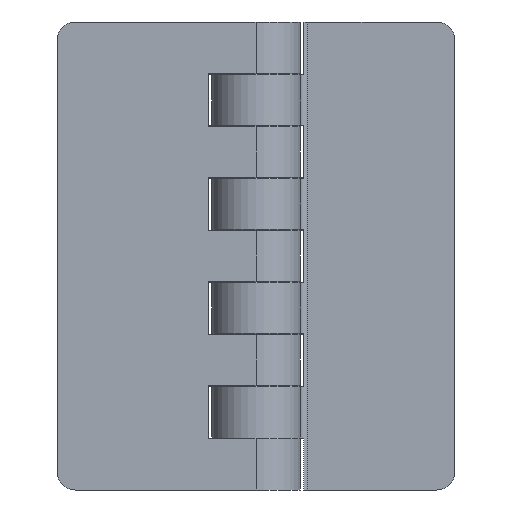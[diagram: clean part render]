
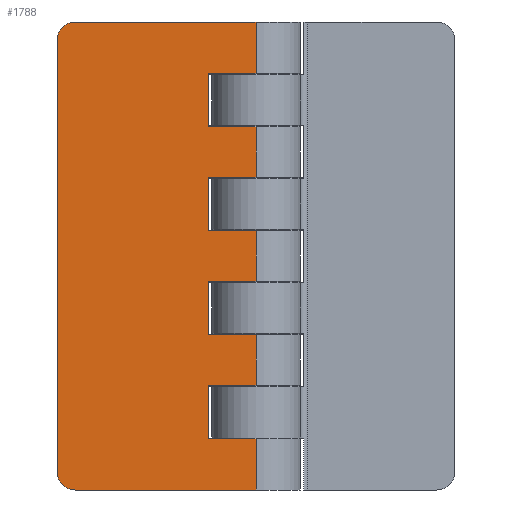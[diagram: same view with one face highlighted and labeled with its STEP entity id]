
A CAD part, front view. The second image highlights one B-rep face of the part: STEP entity #1788.
In plain terms, the highlighted planar face has unit normal (0, -1, 0).
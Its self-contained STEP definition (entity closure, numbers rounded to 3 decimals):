
#1493=CARTESIAN_POINT('',(10.5,-7.3,24.794));
#1494=VERTEX_POINT('',#1493);
#1594=CARTESIAN_POINT('',(4.0,-7.3,24.794));
#1595=VERTEX_POINT('',#1594);
#1596=CARTESIAN_POINT('',(10.5,-7.3,24.794));
#1597=DIRECTION('',(-1.0,0.0,0.0));
#1598=VECTOR('',#1597,6.5);
#1599=LINE('',#1596,#1598);
#1600=EDGE_CURVE('',#1494,#1595,#1599,.T.);
#1612=CARTESIAN_POINT('',(10.5,-7.3,-31.75));
#1613=DIRECTION('',(0.0,-1.0,0.0));
#1614=DIRECTION('',(1.0,0.0,0.0));
#1615=AXIS2_PLACEMENT_3D('',#1612,#1613,#1614);
#1616=PLANE('',#1615);
#1617=CARTESIAN_POINT('',(4.0,-7.3,17.539));
#1618=VERTEX_POINT('',#1617);
#1619=CARTESIAN_POINT('',(4.0,-7.3,24.794));
#1620=DIRECTION('',(0.0,0.0,-1.0));
#1621=VECTOR('',#1620,7.256);
#1622=LINE('',#1619,#1621);
#1623=EDGE_CURVE('',#1595,#1618,#1622,.T.);
#1624=ORIENTED_EDGE('',*,*,#1623,.F.);
#1625=ORIENTED_EDGE('',*,*,#1600,.F.);
#1626=CARTESIAN_POINT('',(10.5,-7.3,31.75));
#1627=VERTEX_POINT('',#1626);
#1628=CARTESIAN_POINT('',(10.5,-7.3,24.794));
#1629=DIRECTION('',(0.0,0.0,1.0));
#1630=VECTOR('',#1629,6.956);
#1631=LINE('',#1628,#1630);
#1632=EDGE_CURVE('',#1494,#1627,#1631,.T.);
#1633=ORIENTED_EDGE('',*,*,#1632,.T.);
#1634=CARTESIAN_POINT('',(-14.0,-7.3,31.75));
#1635=VERTEX_POINT('',#1634);
#1636=CARTESIAN_POINT('',(10.5,-7.3,31.75));
#1637=DIRECTION('',(-1.0,0.0,0.0));
#1638=VECTOR('',#1637,24.5);
#1639=LINE('',#1636,#1638);
#1640=EDGE_CURVE('',#1627,#1635,#1639,.T.);
#1641=ORIENTED_EDGE('',*,*,#1640,.T.);
#1642=CARTESIAN_POINT('',(-16.5,-7.3,29.25));
#1643=VERTEX_POINT('',#1642);
#1644=CARTESIAN_POINT('',(-14.0,-7.3,29.25));
#1645=DIRECTION('',(0.0,-1.0,0.0));
#1646=DIRECTION('',(0.0,0.0,1.0));
#1647=AXIS2_PLACEMENT_3D('',#1644,#1645,#1646);
#1648=CIRCLE('',#1647,2.5);
#1649=EDGE_CURVE('',#1635,#1643,#1648,.T.);
#1650=ORIENTED_EDGE('',*,*,#1649,.T.);
#1651=CARTESIAN_POINT('',(-16.5,-7.3,-29.25));
#1652=VERTEX_POINT('',#1651);
#1653=CARTESIAN_POINT('',(-16.5,-7.3,-29.25));
#1654=DIRECTION('',(0.0,0.0,1.0));
#1655=VECTOR('',#1654,58.5);
#1656=LINE('',#1653,#1655);
#1657=EDGE_CURVE('',#1652,#1643,#1656,.T.);
#1658=ORIENTED_EDGE('',*,*,#1657,.F.);
#1659=CARTESIAN_POINT('',(-14.0,-7.3,-31.75));
#1660=VERTEX_POINT('',#1659);
#1661=CARTESIAN_POINT('',(-14.0,-7.3,-29.25));
#1662=DIRECTION('',(0.0,-1.0,0.0));
#1663=DIRECTION('',(0.0,0.0,-1.0));
#1664=AXIS2_PLACEMENT_3D('',#1661,#1662,#1663);
#1665=CIRCLE('',#1664,2.5);
#1666=EDGE_CURVE('',#1652,#1660,#1665,.T.);
#1667=ORIENTED_EDGE('',*,*,#1666,.T.);
#1668=CARTESIAN_POINT('',(10.5,-7.3,-31.75));
#1669=VERTEX_POINT('',#1668);
#1670=CARTESIAN_POINT('',(-14.0,-7.3,-31.75));
#1671=DIRECTION('',(1.0,0.0,0.0));
#1672=VECTOR('',#1671,24.5);
#1673=LINE('',#1670,#1672);
#1674=EDGE_CURVE('',#1660,#1669,#1673,.T.);
#1675=ORIENTED_EDGE('',*,*,#1674,.T.);
#1676=CARTESIAN_POINT('',(10.5,-7.3,-24.794));
#1677=VERTEX_POINT('',#1676);
#1678=CARTESIAN_POINT('',(10.5,-7.3,-31.75));
#1679=DIRECTION('',(0.0,0.0,1.0));
#1680=VECTOR('',#1679,6.956);
#1681=LINE('',#1678,#1680);
#1682=EDGE_CURVE('',#1669,#1677,#1681,.T.);
#1683=ORIENTED_EDGE('',*,*,#1682,.T.);
#1684=CARTESIAN_POINT('',(4.0,-7.3,-24.794));
#1685=VERTEX_POINT('',#1684);
#1686=CARTESIAN_POINT('',(4.0,-7.3,-24.794));
#1687=DIRECTION('',(1.0,0.0,0.0));
#1688=VECTOR('',#1687,6.5);
#1689=LINE('',#1686,#1688);
#1690=EDGE_CURVE('',#1685,#1677,#1689,.T.);
#1691=ORIENTED_EDGE('',*,*,#1690,.F.);
#1692=CARTESIAN_POINT('',(4.0,-7.3,-17.539));
#1693=VERTEX_POINT('',#1692);
#1694=CARTESIAN_POINT('',(4.0,-7.3,-17.539));
#1695=DIRECTION('',(0.0,0.0,-1.0));
#1696=VECTOR('',#1695,7.256);
#1697=LINE('',#1694,#1696);
#1698=EDGE_CURVE('',#1693,#1685,#1697,.T.);
#1699=ORIENTED_EDGE('',*,*,#1698,.F.);
#1700=CARTESIAN_POINT('',(10.5,-7.3,-17.539));
#1701=VERTEX_POINT('',#1700);
#1702=CARTESIAN_POINT('',(10.5,-7.3,-17.539));
#1703=DIRECTION('',(-1.0,0.0,0.0));
#1704=VECTOR('',#1703,6.5);
#1705=LINE('',#1702,#1704);
#1706=EDGE_CURVE('',#1701,#1693,#1705,.T.);
#1707=ORIENTED_EDGE('',*,*,#1706,.F.);
#1708=CARTESIAN_POINT('',(10.5,-7.3,-10.683));
#1709=VERTEX_POINT('',#1708);
#1710=CARTESIAN_POINT('',(10.5,-7.3,-17.539));
#1711=DIRECTION('',(0.0,0.0,1.0));
#1712=VECTOR('',#1711,6.856);
#1713=LINE('',#1710,#1712);
#1714=EDGE_CURVE('',#1701,#1709,#1713,.T.);
#1715=ORIENTED_EDGE('',*,*,#1714,.T.);
#1716=CARTESIAN_POINT('',(4.0,-7.3,-10.683));
#1717=VERTEX_POINT('',#1716);
#1718=CARTESIAN_POINT('',(4.0,-7.3,-10.683));
#1719=DIRECTION('',(1.0,0.0,0.0));
#1720=VECTOR('',#1719,6.5);
#1721=LINE('',#1718,#1720);
#1722=EDGE_CURVE('',#1717,#1709,#1721,.T.);
#1723=ORIENTED_EDGE('',*,*,#1722,.F.);
#1724=CARTESIAN_POINT('',(4.0,-7.3,-3.428));
#1725=VERTEX_POINT('',#1724);
#1726=CARTESIAN_POINT('',(4.0,-7.3,-3.428));
#1727=DIRECTION('',(0.0,0.0,-1.0));
#1728=VECTOR('',#1727,7.256);
#1729=LINE('',#1726,#1728);
#1730=EDGE_CURVE('',#1725,#1717,#1729,.T.);
#1731=ORIENTED_EDGE('',*,*,#1730,.F.);
#1732=CARTESIAN_POINT('',(10.5,-7.3,-3.428));
#1733=VERTEX_POINT('',#1732);
#1734=CARTESIAN_POINT('',(10.5,-7.3,-3.428));
#1735=DIRECTION('',(-1.0,0.0,0.0));
#1736=VECTOR('',#1735,6.5);
#1737=LINE('',#1734,#1736);
#1738=EDGE_CURVE('',#1733,#1725,#1737,.T.);
#1739=ORIENTED_EDGE('',*,*,#1738,.F.);
#1740=CARTESIAN_POINT('',(10.5,-7.3,3.428));
#1741=VERTEX_POINT('',#1740);
#1742=CARTESIAN_POINT('',(10.5,-7.3,-3.428));
#1743=DIRECTION('',(0.0,0.0,1.0));
#1744=VECTOR('',#1743,6.856);
#1745=LINE('',#1742,#1744);
#1746=EDGE_CURVE('',#1733,#1741,#1745,.T.);
#1747=ORIENTED_EDGE('',*,*,#1746,.T.);
#1748=CARTESIAN_POINT('',(4.0,-7.3,3.428));
#1749=VERTEX_POINT('',#1748);
#1750=CARTESIAN_POINT('',(4.0,-7.3,3.428));
#1751=DIRECTION('',(1.0,0.0,0.0));
#1752=VECTOR('',#1751,6.5);
#1753=LINE('',#1750,#1752);
#1754=EDGE_CURVE('',#1749,#1741,#1753,.T.);
#1755=ORIENTED_EDGE('',*,*,#1754,.F.);
#1756=CARTESIAN_POINT('',(4.0,-7.3,10.683));
#1757=VERTEX_POINT('',#1756);
#1758=CARTESIAN_POINT('',(4.0,-7.3,10.683));
#1759=DIRECTION('',(0.0,0.0,-1.0));
#1760=VECTOR('',#1759,7.256);
#1761=LINE('',#1758,#1760);
#1762=EDGE_CURVE('',#1757,#1749,#1761,.T.);
#1763=ORIENTED_EDGE('',*,*,#1762,.F.);
#1764=CARTESIAN_POINT('',(10.5,-7.3,10.683));
#1765=VERTEX_POINT('',#1764);
#1766=CARTESIAN_POINT('',(10.5,-7.3,10.683));
#1767=DIRECTION('',(-1.0,0.0,0.0));
#1768=VECTOR('',#1767,6.5);
#1769=LINE('',#1766,#1768);
#1770=EDGE_CURVE('',#1765,#1757,#1769,.T.);
#1771=ORIENTED_EDGE('',*,*,#1770,.F.);
#1772=CARTESIAN_POINT('',(10.5,-7.3,17.539));
#1773=VERTEX_POINT('',#1772);
#1774=CARTESIAN_POINT('',(10.5,-7.3,10.683));
#1775=DIRECTION('',(0.0,0.0,1.0));
#1776=VECTOR('',#1775,6.856);
#1777=LINE('',#1774,#1776);
#1778=EDGE_CURVE('',#1765,#1773,#1777,.T.);
#1779=ORIENTED_EDGE('',*,*,#1778,.T.);
#1780=CARTESIAN_POINT('',(4.0,-7.3,17.539));
#1781=DIRECTION('',(1.0,0.0,0.0));
#1782=VECTOR('',#1781,6.5);
#1783=LINE('',#1780,#1782);
#1784=EDGE_CURVE('',#1618,#1773,#1783,.T.);
#1785=ORIENTED_EDGE('',*,*,#1784,.F.);
#1786=EDGE_LOOP('',(#1624,#1625,#1633,#1641,#1650,#1658,#1667,#1675,#1683,#1691,#1699,#1707,#1715,#1723,#1731,#1739,#1747,#1755,#1763,#1771,#1779,#1785));
#1787=FACE_OUTER_BOUND('',#1786,.T.);
#1788=ADVANCED_FACE('',(#1787),#1616,.T.);
